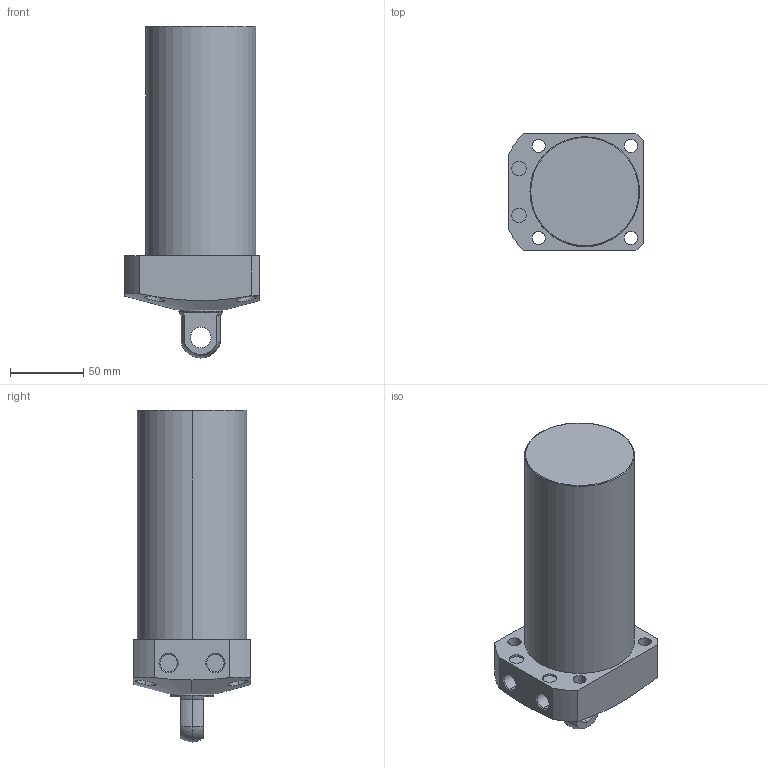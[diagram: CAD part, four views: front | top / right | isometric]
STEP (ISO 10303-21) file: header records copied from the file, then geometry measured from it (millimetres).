
FILE_DESCRIPTION (( 'STEP AP203' ), '1' );
FILE_NAME ('CLL-075CP-120.STEP', '2019-12-25T07:36:11', ( '' ), ( '' ), 'SwSTEP 2.0', 'SolidWorks 2015', '' );
FILE_SCHEMA (( 'CONFIG_CONTROL_DESIGN' ));
Length unit declared in the file: millimetre
Products named in the file (1): CLL-075CP-120
Bounding box: 92 x 80 x 227 mm (x, y, z)
Volume: 921046.6 mm3; surface area: 68895.9 mm2
Topology: 1 solids, 1 shells, 68 faces, 159 edges, 103 vertices
Faces by surface type: cylinder 35, plane 21, cone 8, sphere 2, torus 2
Entity records: 2459 total; most frequent: CARTESIAN_POINT 762, DIRECTION 357, ORIENTED_EDGE 318, EDGE_CURVE 159, AXIS2_PLACEMENT_3D 149, VERTEX_POINT 103, EDGE_LOOP 88, CIRCLE 80
